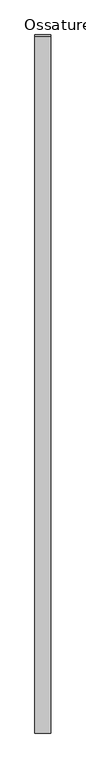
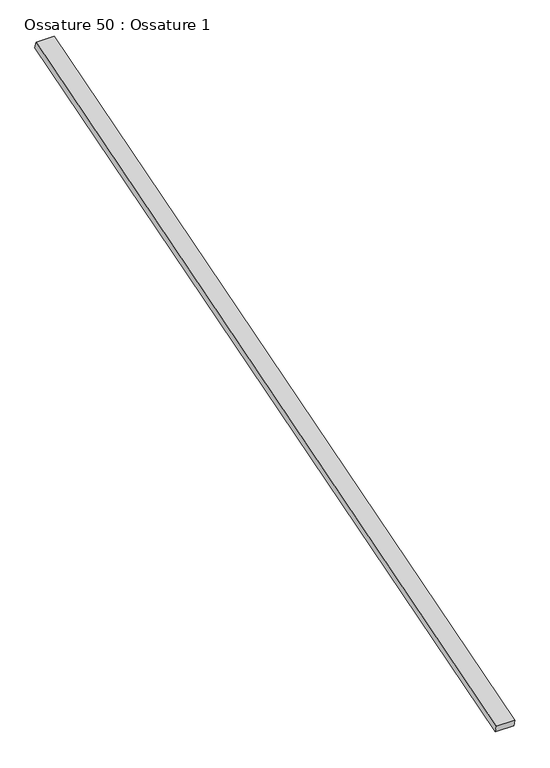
"""IFC4 building model written with IfcOpenShell, lengths in millimetres: beam geometry, Ossature 50 : Ossature 1."""

import ifcopenshell
import ifcopenshell.guid

model = None  # the IFC model being written
_history = None  # IfcOwnerHistory: only IFC2X3 demands one
_inside = {}  # id of a spatial element -> (the spatial element, [elements in it])
_under = {}  # id of a project, library or spatial element -> (it, [spatial elements below it])
_declared = {}  # id of a project -> (the project, [libraries it declares])
_typed = {}  # id of a type object -> (the type object, [elements of that type])
_made_of = {}  # id of a material, layer set ... -> (it, [elements and type objects made of it])


def new_model(schema):
    """Start an empty IFC model of exactly this schema.

    Asked for "IFC4X3", IfcOpenShell would pick the latest addendum, in which some entities
    have other attributes; the version numbers below select the first issue.
    IFC2X3 requires an IfcOwnerHistory on every rooted entity: one is made here for all.
    """
    global model, _history
    if schema == "IFC4X3":
        model = ifcopenshell.file(schema_version=(4, 3, 0, 0))
    else:
        model = ifcopenshell.file(schema=schema)
    _inside.clear()
    _under.clear()
    _declared.clear()
    _typed.clear()
    _made_of.clear()
    _history = None
    if model.schema == "IFC2X3":
        org = make("IfcOrganization", Name="unknown")
        user = make(
            "IfcPersonAndOrganization",
            ThePerson=make("IfcPerson", FamilyName="unknown"),
            TheOrganization=org,
        )
        app = make(
            "IfcApplication",
            ApplicationDeveloper=org,
            Version="unknown",
            ApplicationFullName="unknown",
            ApplicationIdentifier="unknown",
        )
        _history = make(
            "IfcOwnerHistory",
            OwningUser=user,
            OwningApplication=app,
            ChangeAction="ADDED",
            CreationDate=0,
        )
    return model


def make(cls, **values):
    """One entity of the class cls with the attributes given. An attribute that is None is left unset."""
    return model.create_entity(
        cls, **{name: value for name, value in values.items() if value is not None}
    )


def rooted(cls, **values):
    """An entity with a GlobalId (a new one), such as an element, a storey or a relation."""
    return make(cls, GlobalId=ifcopenshell.guid.new(), OwnerHistory=_history, **values)


def si_unit(unit_type, name, prefix=None):
    """IfcSIUnit, for example si_unit("LENGTHUNIT", "METRE", prefix="MILLI")."""
    return make("IfcSIUnit", UnitType=unit_type, Prefix=prefix, Name=name)


def assignment(units):
    """IfcUnitAssignment: the units of a project."""
    return None if units is None else make("IfcUnitAssignment", Units=units)


def point(xyz):
    """IfcCartesianPoint."""
    return None if xyz is None else make("IfcCartesianPoint", Coordinates=xyz)


def direction(xyz):
    """IfcDirection."""
    return None if xyz is None else make("IfcDirection", DirectionRatios=xyz)


def frame(location, z_axis=None, x_axis=None):
    """IfcAxis2Placement3D, a coordinate frame: its origin and axes. An axis left out is left unset."""
    return make(
        "IfcAxis2Placement3D",
        Location=point(location),
        Axis=direction(z_axis),
        RefDirection=direction(x_axis),
    )


def origin():
    """The frame at (0, 0, 0) with its axes left unset."""
    return frame((0.0, 0.0, 0.0))


def place(relative_to, where):
    """IfcLocalPlacement: puts the frame where relative to a parent placement (None: the world)."""
    return make(
        "IfcLocalPlacement", PlacementRelTo=relative_to, RelativePlacement=where
    )


def context(
    kind, dimensions, precision=None, world=None, true_north=None, identifier=None
):
    """IfcGeometricRepresentationContext, for example the 3D "Model" context."""
    return make(
        "IfcGeometricRepresentationContext",
        ContextIdentifier=identifier,
        ContextType=kind,
        CoordinateSpaceDimension=dimensions,
        Precision=precision,
        WorldCoordinateSystem=world,
        TrueNorth=true_north,
    )


def project(units=None, contexts=None):
    """IfcProject with its units and contexts."""
    return rooted(
        "IfcProject",
        Name="project",
        RepresentationContexts=contexts,
        UnitsInContext=assignment(units),
    )


def spatial(cls, under=None, at=None, **own):
    """A site, building, storey or space (cls), placed at a placement, below another one or the project."""
    s = rooted(cls, ObjectPlacement=at, **own)
    if under is not None:
        _under.setdefault(under.id(), (under, []))[1].append(s)
    return s


def polyline(points):
    """IfcPolyline through the points."""
    return make("IfcPolyline", Points=[point(p) for p in points])


def outline(outer, holes=None, kind="AREA"):
    """IfcArbitraryClosedProfileDef: a profile drawn as a closed curve; with holes, ...WithVoids."""
    if holes is None:
        return make("IfcArbitraryClosedProfileDef", ProfileType=kind, OuterCurve=outer)
    return make(
        "IfcArbitraryProfileDefWithVoids",
        ProfileType=kind,
        OuterCurve=outer,
        InnerCurves=holes,
    )


def extrude(swept, where, along, depth):
    """IfcExtrudedAreaSolid: the profile swept, set in the frame where, extruded along a direction by depth."""
    return make(
        "IfcExtrudedAreaSolid",
        SweptArea=swept,
        Position=where,
        ExtrudedDirection=direction(along),
        Depth=depth,
    )


def shape(context_of_items, identifier, shape_type, items):
    """IfcShapeRepresentation: the items that make up one representation, for example the "Body"."""
    return make(
        "IfcShapeRepresentation",
        ContextOfItems=context_of_items,
        RepresentationIdentifier=identifier,
        RepresentationType=shape_type,
        Items=items,
    )


def source(mapping_origin, context_of_items, identifier, shape_type, items):
    """IfcRepresentationMap: a shape defined once, which mapped items show again and again."""
    return make(
        "IfcRepresentationMap",
        MappingOrigin=mapping_origin,
        MappedRepresentation=shape(context_of_items, identifier, shape_type, items),
    )


def transform(
    local_origin,
    x_axis=None,
    y_axis=None,
    z_axis=None,
    scale=None,
    scale2=None,
    scale3=None,
    uniform=True,
):
    """IfcCartesianTransformationOperator3D, or its non-uniform kind. x_axis, y_axis, z_axis: its Axis1, 2, 3."""
    if uniform:
        return make(
            "IfcCartesianTransformationOperator3D",
            Axis1=direction(x_axis),
            Axis2=direction(y_axis),
            LocalOrigin=point(local_origin),
            Scale=scale,
            Axis3=direction(z_axis),
        )
    return make(
        "IfcCartesianTransformationOperator3DnonUniform",
        Axis1=direction(x_axis),
        Axis2=direction(y_axis),
        LocalOrigin=point(local_origin),
        Scale=scale,
        Axis3=direction(z_axis),
        Scale2=scale2,
        Scale3=scale3,
    )


def mapped(mapping_source, mapping_target):
    """IfcMappedItem: shows the shape of a source again, moved by a transform."""
    return make(
        "IfcMappedItem", MappingSource=mapping_source, MappingTarget=mapping_target
    )


def made_of(thing, what):
    """Note that an element or type object is made of a material, layer set ...; save() writes the relation."""
    if what is not None:
        _made_of.setdefault(what.id(), (what, []))[1].append(thing)
    return thing


def element(
    cls,
    number,
    at=None,
    inside=None,
    cuts=None,
    type_object=None,
    material=None,
    context=None,
    identifier="Body",
    shape_type=None,
    held_by="IfcProductDefinitionShape",
    body=None,
    shapes=None,
    **own,
):
    """One element of the class cls, such as IfcWall. Its Tag is "e" and its number.

    at: its placement. inside: the storey or other place that contains it. cuts: it is an
    opening in that element (IfcRelVoidsElement). A single representation is given by context,
    identifier, shape_type and body (its items); several are given by shapes. held_by: the class
    of the entity that holds the representations. save() writes the other relations.
    """
    e = rooted(cls, Tag="e%d" % number, ObjectPlacement=at, **own)
    if body is not None:
        shapes = [shape(context, identifier, shape_type, body)]
    if shapes is not None:
        e.Representation = make(held_by, Representations=shapes)
    if inside is not None:
        _inside.setdefault(inside.id(), (inside, []))[1].append(e)
    if cuts is not None:
        rooted(
            "IfcRelVoidsElement", RelatingBuildingElement=cuts, RelatedOpeningElement=e
        )
    if type_object is not None:
        _typed.setdefault(type_object.id(), (type_object, []))[1].append(e)
    return made_of(e, material)


def aggregate(whole, parts):
    """IfcRelAggregates: a whole, such as a stair, and the parts it consists of."""
    return rooted("IfcRelAggregates", RelatingObject=whole, RelatedObjects=parts)


def save(model, path):
    """Write the relations noted so far, then the file.

    IfcRelAggregates (storeys below a building ...), IfcRelContainedInSpatialStructure (elements
    in a storey), IfcRelDefinesByType, IfcRelAssociatesMaterial and IfcRelDeclares: one each for
    every whole, place, type object, material and project.
    """
    for whole, parts in _under.values():
        aggregate(whole, parts)
    for where, things in _inside.values():
        rooted(
            "IfcRelContainedInSpatialStructure",
            RelatedElements=things,
            RelatingStructure=where,
        )
    for kind, things in _typed.values():
        rooted("IfcRelDefinesByType", RelatedObjects=things, RelatingType=kind)
    for what, things in _made_of.values():
        rooted("IfcRelAssociatesMaterial", RelatedObjects=things, RelatingMaterial=what)
    for by, libraries in _declared.values():
        rooted("IfcRelDeclares", RelatingContext=by, RelatedDefinitions=libraries)
    model.write(path)


def ossature_50_ossature_1_ac60caf4(model_context):
    return source(origin(), model_context, "Body", "SweptSolid", [
        extrude(outline(polyline([(0.0, 0.0), (0.0, -4543.0299679), (-100.0, -4543.0299679), (-100.0, 0.0), (0.0, 0.0)])), frame((12205.6466393, -833.3913565, 8153.6336115), z_axis=(0.0, -0.28734788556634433, 0.9578262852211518), x_axis=(-1.0, 0.0, 0.0)), (0.0, 0.0, 1.0), 40.0),
    ])


if __name__ == "__main__":
    model = new_model("IFC4")
    model_context = context("Model", 3, world=origin())
    ifc_project = project(units=[si_unit("LENGTHUNIT", "METRE", prefix="MILLI")], contexts=[model_context])
    site = spatial("IfcSite", under=ifc_project)
    building = spatial("IfcBuilding", under=site)
    placement = place(None, origin())
    ossature_50_ossature_1_shape = ossature_50_ossature_1_ac60caf4(model_context)
    element("IfcBeam", 1, ObjectType="Ossature 50 : Ossature 1", at=placement, inside=building, context=model_context, shape_type="MappedRepresentation", body=[
        mapped(ossature_50_ossature_1_shape, transform((0.0, 0.0, 0.0), x_axis=(1.0, 0.0, 0.0), y_axis=(0.0, 1.0, 0.0), z_axis=(0.0, 0.0, 1.0))),
    ])
    save(model, "model.ifc")
